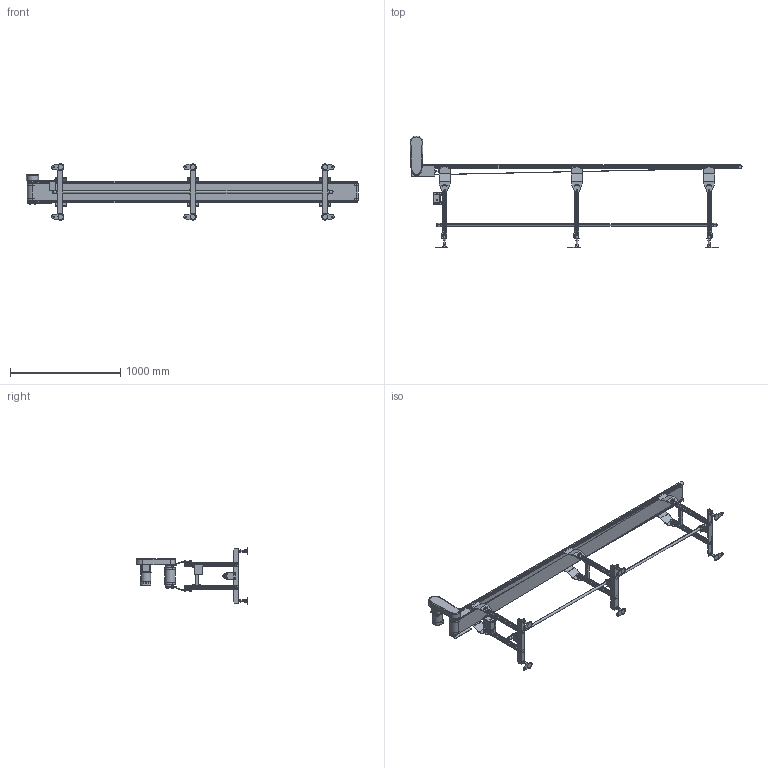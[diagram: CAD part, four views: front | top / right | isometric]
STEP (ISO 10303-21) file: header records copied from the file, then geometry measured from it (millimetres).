
FILE_DESCRIPTION( (''), '2;1');
FILE_NAME ('MB22-OD-309-150-300-L-K-100-O.stp','2025-02-17T10:36:17',(''),(''),'spGate 20.6.2 (****-****-****-****)','','');
FILE_SCHEMA (('AUTOMOTIVE_DESIGN'));
Length unit declared in the file: millimetre
Products named in the file (59): NewModel; MB22-OD-150-3000-L; TEMP_X_T-prt0; TEMP_X_T-prt1; TEMP_X_T-prt2; TEMP_X_T-prt3; TEMP_X_T-prt4; TEMP_X_T-prt5; TEMP_X_T-prt6; TEMP_X_T-prt7; TEMP_X_T-prt8; TEMP_X_T-prt9; TEMP_X_T-prt10; TEMP_X_T-prt11; TEMP_X_T-prt12; TEMP_X_T-prt13; TEMP_X_T-prt14; TEMP_X_T-prt15; TEMP_X_T-prt16; TEMP_X_T-prt17; TEMP_X_T-prt18; TEMP_X_T-prt19; TEMP_X_T-prt20; TEMP_X_T-prt21; TEMP_X_T-prt22; TEMP_X_T-prt23; TEMP_X_T-prt24; TEMP_X_T-prt25; TEMP_X_T-prt26; TEMP_X_T-prt27; TEMP_X_T-prt28; TEMP_X_T-prt29; TEMP_X_T-prt30; TEMP_X_T-prt31; TEMP_X_T-prt32; TEMP_X_T-prt33; TEMP_X_T-prt34; TEMP_X_T-prt35; TEMP_X_T-prt36; TEMP_X_T-prt37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
Assembly tree (58 placements, depth 3):
  NewModel
    MB22-OD-150-3000-L
      TEMP_X_T-prt0
      TEMP_X_T-prt1
      TEMP_X_T-prt2
      TEMP_X_T-prt3
      TEMP_X_T-prt4
      TEMP_X_T-prt5
      TEMP_X_T-prt6
      TEMP_X_T-prt7
      TEMP_X_T-prt8
      TEMP_X_T-prt9
      TEMP_X_T-prt10
      TEMP_X_T-prt11
      TEMP_X_T-prt12
      TEMP_X_T-prt13
      TEMP_X_T-prt14
      TEMP_X_T-prt15
      TEMP_X_T-prt16
      TEMP_X_T-prt17
      TEMP_X_T-prt18
      TEMP_X_T-prt19
      TEMP_X_T-prt20
      TEMP_X_T-prt21
      TEMP_X_T-prt22
      TEMP_X_T-prt23
      TEMP_X_T-prt24
      TEMP_X_T-prt25
      TEMP_X_T-prt26
      TEMP_X_T-prt27
      TEMP_X_T-prt28
      TEMP_X_T-prt29
      TEMP_X_T-prt30
      TEMP_X_T-prt31
      TEMP_X_T-prt32
      TEMP_X_T-prt33
      TEMP_X_T-prt34
      TEMP_X_T-prt35
      TEMP_X_T-prt36
      TEMP_X_T-prt37
      TEMP_X_T-prt38
      TEMP_X_T-prt39
      TEMP_X_T-prt40
      TEMP_X_T-prt41
      TEMP_X_T-prt42
      TEMP_X_T-prt43
      TEMP_X_T-prt44
      TEMP_X_T-prt45
      TEMP_X_T-prt46
      TEMP_X_T-prt47
      TEMP_X_T-prt48
      TEMP_X_T-prt49
      TEMP_X_T-prt50
      TEMP_X_T-prt51
      TEMP_X_T-prt52
      TEMP_X_T-prt53
      TEMP_X_T-prt54
      TEMP_X_T-prt55
      TEMP_X_T-prt56
Bounding box: 3011.85 x 1014.29 x 510.99 mm (x, y, z)
Volume: 14548836.7 mm3; surface area: 6018039.5 mm2
Topology: 57 solids, 57 shells, 2686 faces, 6744 edges, 4371 vertices
Faces by surface type: plane 1910, cylinder 609, bspline 167
Entity records: 138837 total; most frequent: CARTESIAN_POINT 18946, ORIENTED_EDGE 13464, DIRECTION 12746, COLOUR_RGB 9475, PRESENTATION_STYLE_ASSIGNMENT 9475, STYLED_ITEM 9475, EDGE_CURVE 6732, DRAUGHTING_PRE_DEFINED_CURVE_FONT 6732
